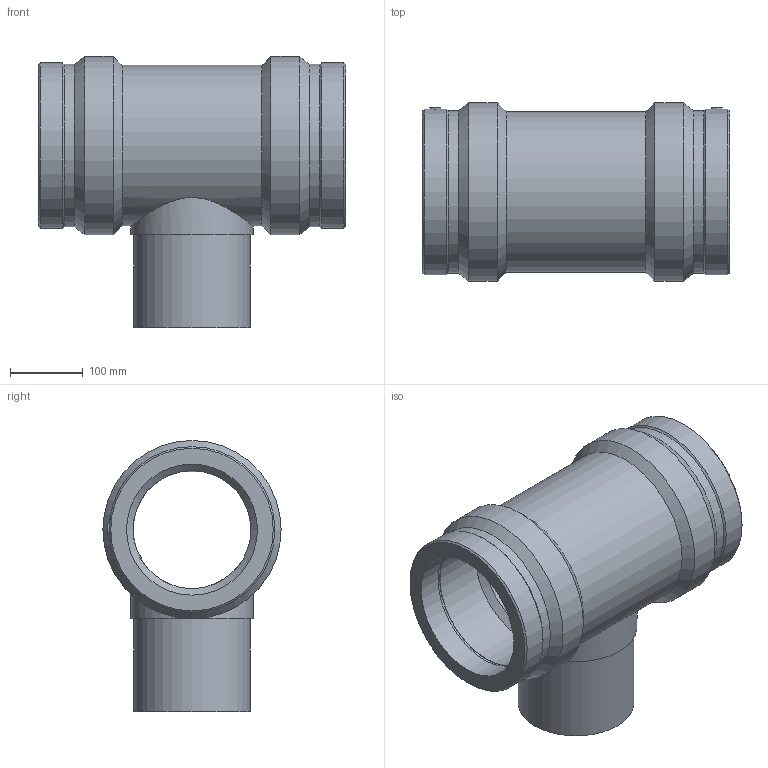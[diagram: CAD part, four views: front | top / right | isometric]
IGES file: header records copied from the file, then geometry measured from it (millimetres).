
Global section: file name: 491404180160.ipt; native system: Autodesk Inventor 2015; preprocessor: unknown; author: KIM; date: 20190909.112847; units: millimetre
Bounding box: 422 x 245 x 372.5 mm (x, y, z)
Volume: 8265182 mm3; surface area: 703176.2 mm2
Topology: 1 solids, 1 shells, 45 faces, 101 edges, 66 vertices
Faces by surface type: plane 12, revolution 12, cylinder 11, cone 10
Full cylindrical faces by diameter (mm): 4 x2, 160 x1, 168 x1, 220.5 x1, 223.293 x2, 227.85 x2, 245 x2
